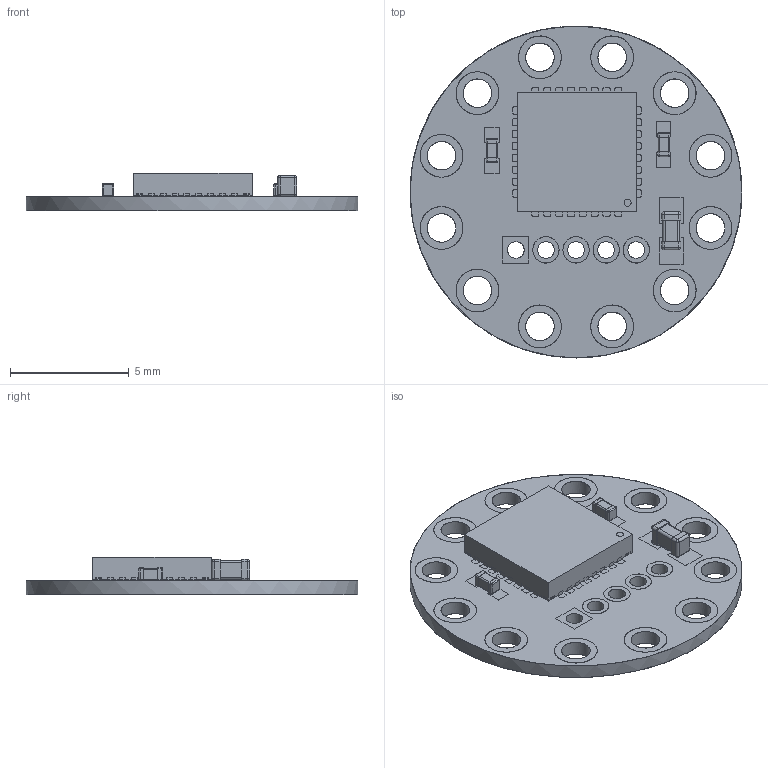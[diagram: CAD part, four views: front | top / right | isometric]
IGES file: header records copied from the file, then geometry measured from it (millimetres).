
Global section: file name: Filename.iges; native system: Open CASCADE 7.4; preprocessor: Open CASCADE IGES processor 7.4; date: 20200819.122633; units: millimetre
Bounding box: 14 x 14 x 1.6 mm (x, y, z)
Surface area: 603.3 mm2 (no closed solid volume)
Topology: 0 solids, 0 shells, 1206 faces, 10800 edges, 31536 vertices
Faces by surface type: plane 864, revolution 342
